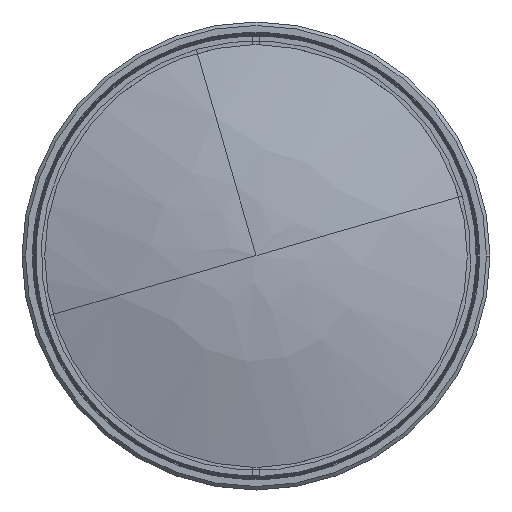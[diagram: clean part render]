
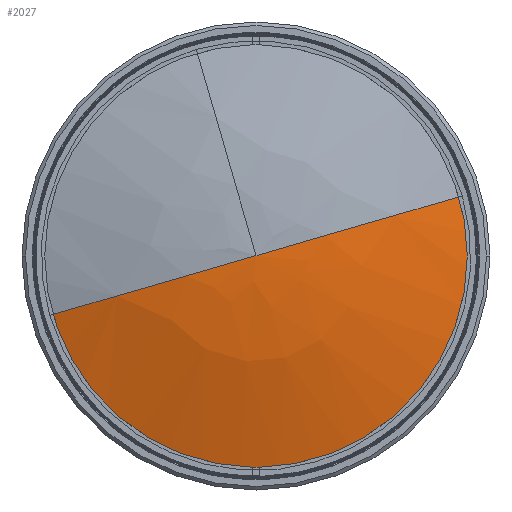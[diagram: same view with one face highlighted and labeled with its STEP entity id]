
A CAD part, left-side view. The second image highlights one B-rep face of the part: STEP entity #2027.
In plain terms, the highlighted free-form (B-spline) face has degree [2, 2] with [3, 5] control points.
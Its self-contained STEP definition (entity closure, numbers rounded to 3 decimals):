
#2027=ADVANCED_FACE('',(#4210),#4211,.T.);
#4210=FACE_OUTER_BOUND('',#16340,.T.);
#4211=(B_SPLINE_SURFACE(2,2,((#16342,#16343,#16344,#16345,#16346),(#16347,#16348,#16349,#16350,#16351),(#16352,#16353,#16354,#16355,#16356)),.UNSPECIFIED.,.F.,.F.,.F.)B_SPLINE_SURFACE_WITH_KNOTS((3,3),(3,2,3),(0.0,0.105),(0.0,0.25,0.5),.UNSPECIFIED.)RATIONAL_B_SPLINE_SURFACE(((0.903,0.639,0.903,0.639,0.903),(0.939,0.664,0.939,0.664,0.939),(1.0,0.707,1.0,0.707,1.0)))BOUNDED_SURFACE()REPRESENTATION_ITEM('')GEOMETRIC_REPRESENTATION_ITEM()SURFACE());
#16340=EDGE_LOOP('',(#22675,#22676,#22677));
#16342=CARTESIAN_POINT('',(-99.825,82.289,-30.75));
#16343=CARTESIAN_POINT('',(-130.575,82.289,-30.75));
#16344=CARTESIAN_POINT('',(-130.575,82.289,0.));
#16345=CARTESIAN_POINT('',(-130.575,82.289,30.75));
#16346=CARTESIAN_POINT('',(-99.825,82.289,30.75));
#16347=CARTESIAN_POINT('',(-99.825,77.348,-15.772));
#16348=CARTESIAN_POINT('',(-115.597,77.348,-15.772));
#16349=CARTESIAN_POINT('',(-115.597,77.348,0.));
#16350=CARTESIAN_POINT('',(-115.597,77.348,15.772));
#16351=CARTESIAN_POINT('',(-99.825,77.348,15.772));
#16352=CARTESIAN_POINT('',(-99.825,77.257,0.));
#16353=CARTESIAN_POINT('',(-99.825,77.257,0.));
#16354=CARTESIAN_POINT('',(-99.825,77.257,0.));
#16355=CARTESIAN_POINT('',(-99.825,77.257,0.));
#16356=CARTESIAN_POINT('',(-99.825,77.257,0.));
#22675=ORIENTED_EDGE('',*,*,#27374,.F.);
#22676=ORIENTED_EDGE('',*,*,#27377,.F.);
#22677=ORIENTED_EDGE('',*,*,#27379,.T.);
#27374=EDGE_CURVE('',#31292,#31276,#31293,.T.);
#27377=EDGE_CURVE('',#31273,#31292,#31296,.T.);
#27379=EDGE_CURVE('',#31273,#31276,#31298,.T.);
#31273=VERTEX_POINT('',#47259);
#31276=VERTEX_POINT('',#47262);
#31292=VERTEX_POINT('',#47280);
#31293=CIRCLE('',#47281,100.);
#31296=CIRCLE('',#47284,100.);
#31298=CIRCLE('',#47286,30.75);
#47259=CARTESIAN_POINT('',(-99.825,82.289,30.75));
#47262=CARTESIAN_POINT('',(-99.825,82.289,-30.75));
#47280=CARTESIAN_POINT('',(-99.825,77.257,0.));
#47281=AXIS2_PLACEMENT_3D('',#53981,#53982,#53983);
#47284=AXIS2_PLACEMENT_3D('',#53987,#53988,#53989);
#47286=AXIS2_PLACEMENT_3D('',#53990,#53991,#53992);
#53981=CARTESIAN_POINT('',(-99.825,177.255,0.577));
#53982=DIRECTION('',(1.0,0.,0.));
#53983=DIRECTION('',(0.,-1.,-0.006));
#53987=CARTESIAN_POINT('',(-99.825,177.255,-0.577));
#53988=DIRECTION('',(1.0,0.,0.));
#53989=DIRECTION('',(0.,-0.95,0.313));
#53990=CARTESIAN_POINT('',(-99.825,82.289,0.));
#53991=DIRECTION('',(0.,-1.0,0.));
#53992=DIRECTION('',(0.,0.0,1.0));
